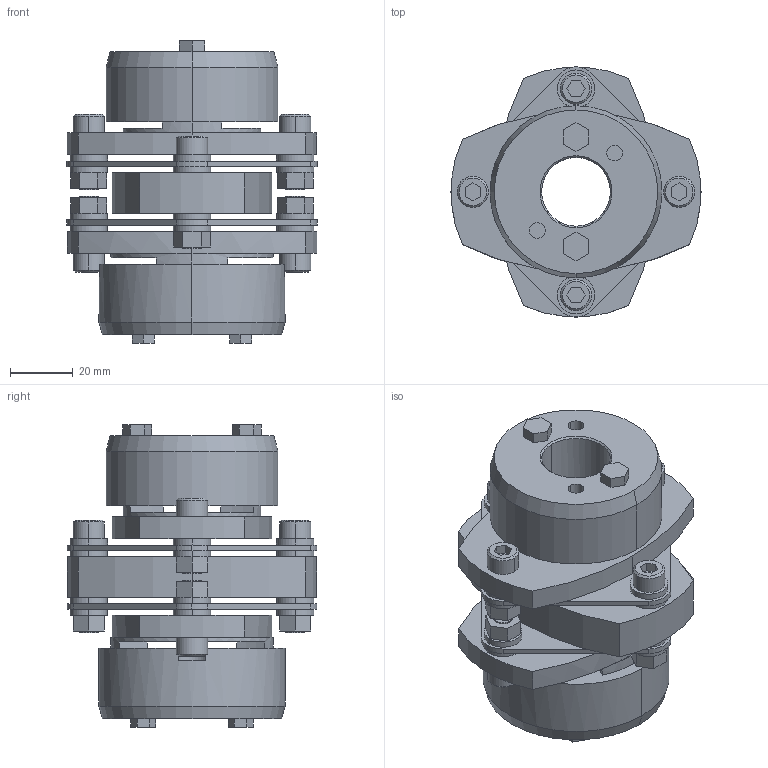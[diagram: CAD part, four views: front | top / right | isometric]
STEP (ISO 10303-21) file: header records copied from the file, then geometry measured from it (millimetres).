
FILE_DESCRIPTION((''),'2;1');
FILE_NAME('LCD-80T7-22×32.stp','2011-09-15T14:25:31',(''),(''),'AutoCAD STEP 2000i','AutoCAD 2000i',', , ');
FILE_SCHEMA(('CONFIG_CONTROL_DESIGN'));
Length unit declared in the file: millimetre
Products named in the file (12): LCD-80T7-22×32; 忣兜1; LC80T7-T032; LC80T7-T030; LC80T7-T024; LC80T7-T022-1; LC80T7-T022; LC80T7-T019-1; LC80T7-T019; LC80T7-T017-1; LC80T7-T017; LCD80-ITA
Assembly tree (11 placements, depth 2):
  LCD-80T7-22×32
    忣兜1
    LC80T7-T032
    LC80T7-T030
    LC80T7-T024
    LC80T7-T022-1
    LC80T7-T022
    LC80T7-T019-1
    LC80T7-T019
    LC80T7-T017-1
    LC80T7-T017
    LCD80-ITA
Bounding box: 80 x 79.95 x 96.8 mm (x, y, z)
Volume: 183695.4 mm3; surface area: 58302.8 mm2
Topology: 1 solids, 1 shells, 327 faces, 800 edges, 524 vertices
Faces by surface type: plane 181, cylinder 122, cone 24
Entity records: 9967 total; most frequent: DIRECTION 1774, CARTESIAN_POINT 1663, ORIENTED_EDGE 1600, EDGE_CURVE 800, AXIS2_PLACEMENT_3D 635, VERTEX_POINT 524, VECTOR 504, LINE 504
